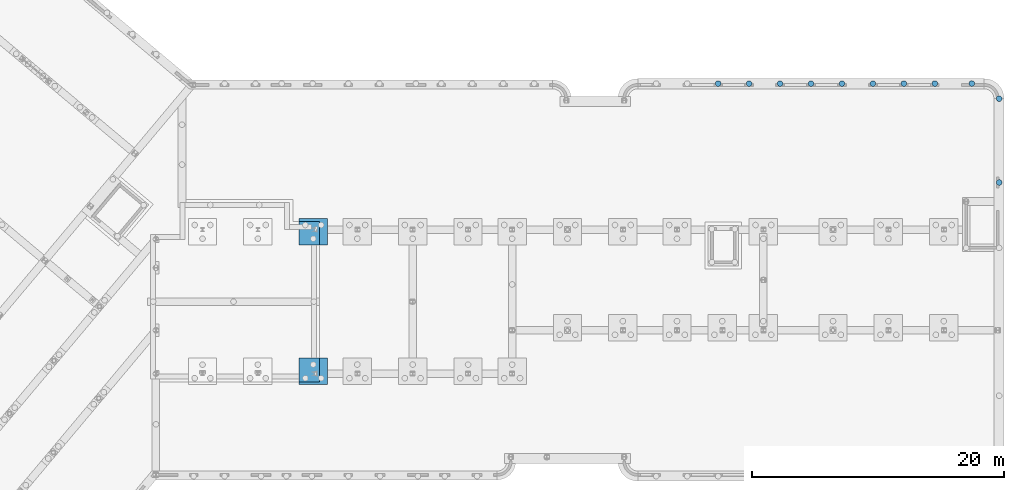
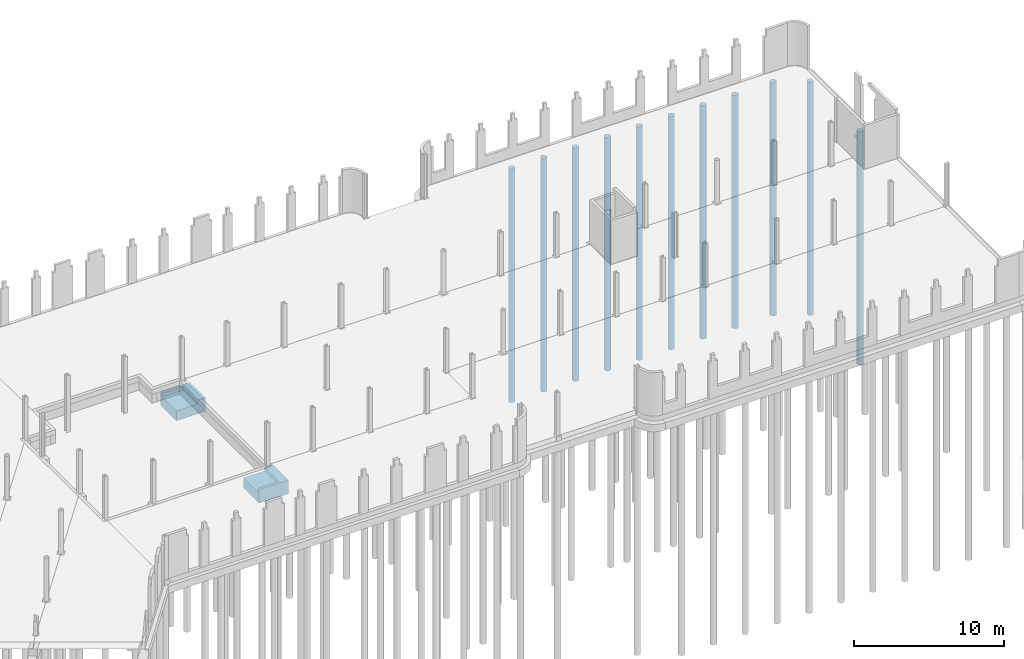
# One storey, part 4 of 26: 11 piles, 2 footings.
"""IFC2X3 building model written with IfcOpenShell, lengths in millimetres."""

from ifc_helpers import new_model, entity, si_unit, converted_unit, derived_unit, direction, frame, frame_2d, origin, place, context, subcontext, project, spatial, circle, extrude, faceted_brep, source, transform, mapped, material, type_object, type_shapes, element, save


model = new_model("IFC2X3")

# Units and contexts
model_context = context("Model", 3, precision=0.01, world=origin(), true_north=direction((6.123031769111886e-17, 1.0)))
body_context = subcontext(model_context, "Body", "Model", "MODEL_VIEW")
ifc_project = project(units=[si_unit("LENGTHUNIT", "METRE", prefix="MILLI"), si_unit("AREAUNIT", "SQUARE_METRE"), si_unit("VOLUMEUNIT", "CUBIC_METRE"), derived_unit("MASSDENSITYUNIT", [(si_unit("MASSUNIT", "GRAM", prefix="KILO"), 1), (si_unit("LENGTHUNIT", "METRE"), -3)]), si_unit("MASSUNIT", "GRAM", prefix="KILO"), converted_unit("PLANEANGLEUNIT", "DEGREE", entity("IfcPlaneAngleMeasure", 0.017453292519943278), si_unit("PLANEANGLEUNIT", "RADIAN"), dimensions=[0, 0, 0, 0, 0, 0, 0])], contexts=[model_context])

# Site, building, storey
site_placement = place(None, origin())
site = spatial("IfcSite", under=ifc_project, at=site_placement, Name="Default", CompositionType="ELEMENT")
building_placement = place(site_placement, origin())
building = spatial("IfcBuilding", under=site, at=building_placement, Name="AT constructie", CompositionType="ELEMENT")
storey_placement = place(building_placement, origin())
storey = spatial("IfcBuildingStorey", under=building, at=storey_placement, Name="00 begane grond", CompositionType="ELEMENT", Elevation=-1.0828671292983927e-12)

# Footings
ifc_material_1 = material(Name="f2_beton ihwg_gen")
type_product_1 = type_object("IfcTypeProduct", Name="fundatiepoer_gen_lxbxh 2250x2100x1100", material=ifc_material_1)
shared_shape_1 = source(origin(), body_context, "Body", "Brep", [
    faceted_brep([(54771.8746311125, 32131.88742676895, 0.0), (52521.8746311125, 32131.88742676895, 0.0), (52521.8746311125, 31921.043508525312, 0.0), (54146.87463111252, 31921.043508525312, 0.0), (54146.87463111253, 30031.88742676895, 0.0), (54771.8746311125, 30031.88742676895, 0.0), (54771.8746311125, 32131.88742676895, -1100.0), (54771.8746311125, 30031.88742676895, -1100.0), (52521.8746311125, 30031.88742676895, -1100.0), (52521.8746311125, 32131.88742676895, -1100.0), (52521.8746311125, 30031.88742676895, -300.0), (52521.8746311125, 31921.043508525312, -300.0), (54146.87463111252, 30031.887426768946, -300.0), (54146.87463111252, 31921.043508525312, -300.0)], [[[0, 1, 2, 3, 4, 5]], [[6, 7, 8, 9]], [[1, 0, 6, 9]], [[9, 8, 10, 11, 2, 1]], [[8, 7, 5, 4, 12, 10]], [[0, 5, 7, 6]], [[12, 13, 11, 10]], [[13, 3, 2, 11]], [[3, 13, 12, 4]]]),
])
type_shapes(type_product_1, [shared_shape_1])
footing_1_placement = place(storey_placement, frame((0.0, 0.0, -1154.0)))
element("IfcFooting", 1, at=footing_1_placement, inside=storey, type_object=type_product_1, material=ifc_material_1, Name="NLRS_16_SFO_fundatiepoer_gen_AT:fundatiepoer_gen_lxbxh 2250x2100x1100", ObjectType="NLRS_16_SFO_fundatiepoer_gen_AT:fundatiepoer_gen_lxbxh 2250x2100x1100", PredefinedType="NOTDEFINED", context=body_context, shape_type="MappedRepresentation", body=[
    mapped(shared_shape_1, transform((0.0, 0.0, 0.0), scale=1.0)),
])
type_product_2 = type_object("IfcTypeProduct", Name="fundatiepoer_gen_lxbxh 2250x2100x1100", material=ifc_material_1)
shared_shape_2 = source(origin(), body_context, "Body", "Brep", [
    faceted_brep([(52521.87463111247, 18960.199590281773, 0.0), (54771.87463111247, 18960.199590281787, 0.0), (54771.87463111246, 21060.199590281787, 0.0), (54146.87463111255, 21060.199590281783, 0.0), (54146.87463111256, 19146.04350852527, 0.0), (52521.87463111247, 19146.043508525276, 0.0), (52521.87463111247, 18960.199590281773, -1100.0), (52521.87463111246, 21060.199590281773, -1100.0), (54771.87463111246, 21060.199590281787, -1100.0), (54771.87463111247, 18960.199590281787, -1100.0), (52521.874631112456, 21060.199590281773, -300.0), (54146.87463111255, 21060.199590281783, -300.0), (52521.87463111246, 19146.043508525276, -300.0), (54146.87463111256, 19146.04350852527, -300.0)], [[[0, 1, 2, 3, 4, 5]], [[6, 7, 8, 9]], [[1, 0, 6, 9]], [[2, 1, 9, 8]], [[8, 7, 10, 11, 3, 2]], [[7, 6, 0, 5, 12, 10]], [[12, 13, 11, 10]], [[13, 4, 3, 11]], [[4, 13, 12, 5]]]),
])
type_shapes(type_product_2, [shared_shape_2])
footing_2_placement = place(storey_placement, frame((0.0, 0.0, -1154.0)))
element("IfcFooting", 2, at=footing_2_placement, inside=storey, type_object=type_product_2, material=ifc_material_1, Name="NLRS_16_SFO_fundatiepoer_gen_AT:fundatiepoer_gen_lxbxh 2250x2100x1100", ObjectType="NLRS_16_SFO_fundatiepoer_gen_AT:fundatiepoer_gen_lxbxh 2250x2100x1100", PredefinedType="NOTDEFINED", context=body_context, shape_type="MappedRepresentation", body=[
    mapped(shared_shape_2, transform((0.0, 0.0, 0.0), scale=1.0)),
])

# Piles
ifc_material_2 = material(Name="f2_beton ihwg_C30/37")
type_product_3 = type_object("IfcTypeProduct", Name="Type 4_a-7", material=ifc_material_2)
shared_shape_3 = source(origin(), body_context, "Body", "SweptSolid", [
    extrude(circle(Radius=225.00000000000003, at=frame_2d((1.4426688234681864e-26, -3.634975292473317e-13), x_axis=(1.0, 0.0))), frame((0.0, 0.0, -19020.0)), (0.0, 0.0, 1.0), 19019.999999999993),
])
type_shapes(type_product_3, [shared_shape_3])
for number, where, z_axis, x_axis, name in (
    (3, (108146.87463111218, 35011.04350852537, -1030.0), (0.0, 0.0, 1.0), (-1.0, 0.0, 0.0), "NLRS_17_SFO_fundatiepaal_rond_gen_AT:Type 4_a-7"),
    (4, (108146.8746311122, 41671.04350852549, -1030.0), (0.0, 0.0, 1.0), (-1.0, 0.0, 0.0), "NLRS_17_SFO_fundatiepaal_rond_gen_AT:Type 4_a-7"),
    (5, (105971.87463111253, 42871.04350852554, -1030.0), (0.0, 0.0, 1.0), (-1.0, 0.0, 0.0), "NLRS_17_SFO_fundatiepaal_rond_gen_AT:Type 4_a-7"),
    (6, (103036.87463111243, 42871.043508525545, -1030.0), (0.0, 0.0, 1.0), (-1.0, 0.0, 0.0), "NLRS_17_SFO_fundatiepaal_rond_gen_AT:Type 4_a-7"),
    (7, (100576.87463111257, 42871.04350852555, -1030.0), (0.0, 0.0, 1.0), (-1.0, 0.0, 0.0), "NLRS_17_SFO_fundatiepaal_rond_gen_AT:Type 4_a-7"),
    (8, (98116.87463111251, 42871.04350852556, -1030.0), (0.0, 0.0, 1.0), (-1.0, 0.0, 0.0), "NLRS_17_SFO_fundatiepaal_rond_gen_AT:Type 4_a-7"),
    (9, (95656.87463111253, 42871.04350852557, -1030.0), (0.0, 0.0, 1.0), (-1.0, 0.0, 0.0), "NLRS_17_SFO_fundatiepaal_rond_gen_AT:Type 4_a-7"),
    (10, (93196.8746311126, 42871.04350852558, -1030.0), (0.0, 0.0, 1.0), (-1.0, 0.0, 0.0), "NLRS_17_SFO_fundatiepaal_rond_gen_AT:Type 4_a-7"),
    (11, (90736.87463111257, 42871.04350852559, -1030.0), (0.0, 0.0, 1.0), (-1.0, 0.0, 0.0), "NLRS_17_SFO_fundatiepaal_rond_gen_AT:Type 4_a-7"),
    (12, (88276.87463111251, 42871.043508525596, -1030.0), (0.0, 0.0, 1.0), (-1.0, 0.0, 0.0), "NLRS_17_SFO_fundatiepaal_rond_gen_AT:Type 4_a-7"),
    (13, (85816.87463111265, 42871.0435085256, -1030.0), (0.0, 0.0, 1.0), (-1.0, 0.0, 0.0), "NLRS_17_SFO_fundatiepaal_rond_gen_AT:Type 4_a-7"),
):
    element("IfcPile", number, at=place(storey_placement, frame(where, z_axis=z_axis, x_axis=x_axis)), inside=storey, type_object=type_product_3, material=ifc_material_2, Name=name, ObjectType="NLRS_17_SFO_fundatiepaal_rond_gen_AT:Type 4_a-7", PredefinedType="NOTDEFINED", context=body_context, shape_type="MappedRepresentation", body=[
        mapped(shared_shape_3, transform((0.0, 0.0, 0.0), scale=1.0)),
    ])

save(model, "model.ifc")
